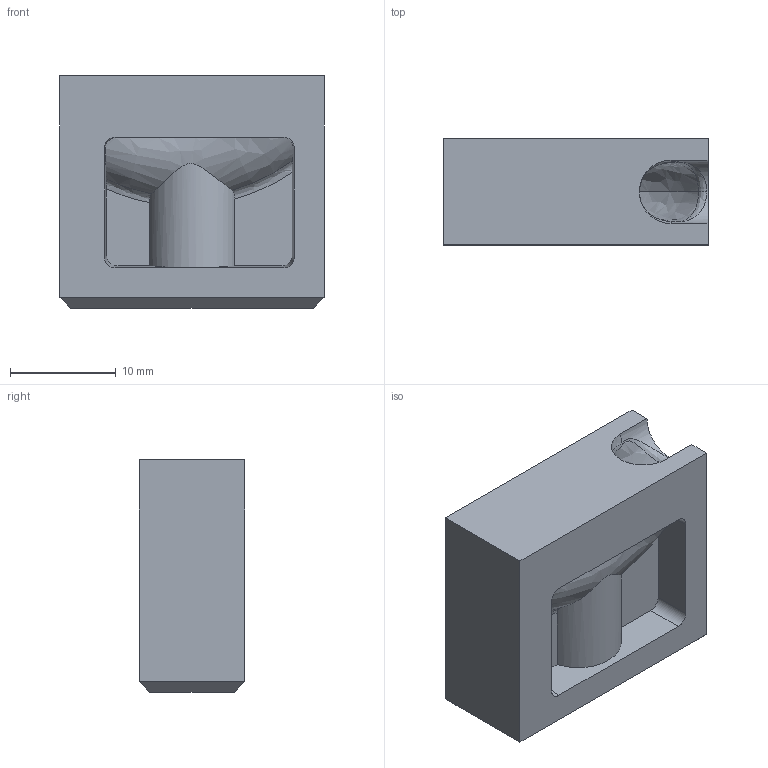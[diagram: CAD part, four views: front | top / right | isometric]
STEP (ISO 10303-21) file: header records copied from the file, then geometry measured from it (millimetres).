
FILE_DESCRIPTION((''),'2;1');
FILE_NAME('TGC2','2004-03-24T',('tmeister'),(''),'PRO/ENGINEER BY PARAMETRIC TECHNOLOGY CORPORATION, 2002270','PRO/ENGINEER BY PARAMETRIC TECHNOLOGY CORPORATION, 2002270','');
FILE_SCHEMA(('CONFIG_CONTROL_DESIGN'));
Length unit declared in the file: millimetre
Products named in the file (1): TGC2
Bounding box: 25 x 10 x 22 mm (x, y, z)
Volume: 4011.4 mm3; surface area: 2879.2 mm2
Topology: 1 solids, 4 shells, 74 faces, 258 edges, 185 vertices
Faces by surface type: plane 23, bspline 22, cylinder 15, sphere 8, cone 4, revolution 2
Entity records: 5197 total; most frequent: CARTESIAN_POINT 3335, ORIENTED_EDGE 352, DIRECTION 304, EDGE_CURVE 180, VERTEX_POINT 114, AXIS2_PLACEMENT_3D 107, B_SPLINE_CURVE_WITH_KNOTS 106, VECTOR 88
